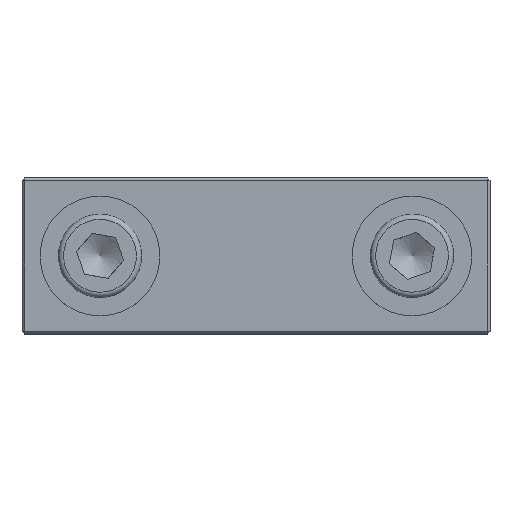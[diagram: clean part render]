
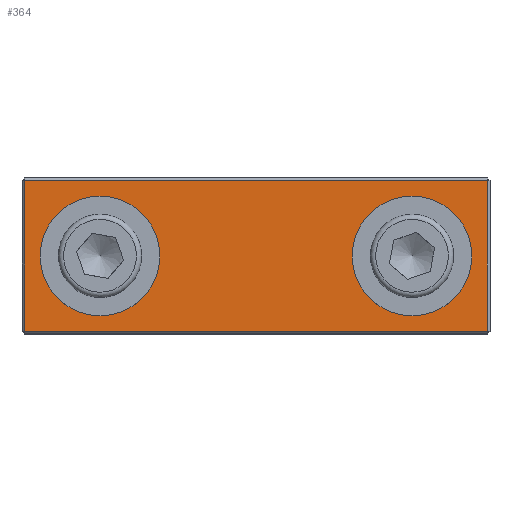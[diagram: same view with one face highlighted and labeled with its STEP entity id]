
A CAD part, top view. The second image highlights one B-rep face of the part: STEP entity #364.
In plain terms, the highlighted planar face has unit normal (0, 0, 1).
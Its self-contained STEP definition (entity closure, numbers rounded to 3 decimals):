
#299=CARTESIAN_POINT('',(35.75,0.,5.0));
#300=VERTEX_POINT('',#299);
#301=CARTESIAN_POINT('',(30.0,0.0,5.0));
#302=DIRECTION('',(0.0,0.0,1.0));
#303=DIRECTION('',(-1.0,0.0,0.0));
#304=AXIS2_PLACEMENT_3D('',#301,#302,#303);
#305=CIRCLE('',#304,5.75);
#306=EDGE_CURVE('',#300,#300,#305,.T.);
#311=CARTESIAN_POINT('',(0.,0.,5.0));
#312=DIRECTION('',(0.0,0.0,1.0));
#313=DIRECTION('',(1.0,0.0,0.0));
#314=AXIS2_PLACEMENT_3D('',#311,#312,#313);
#315=PLANE('',#314);
#316=CARTESIAN_POINT('',(-44.5,-14.5,5.0));
#317=VERTEX_POINT('',#316);
#318=CARTESIAN_POINT('',(-44.5,14.5,5.0));
#319=VERTEX_POINT('',#318);
#320=CARTESIAN_POINT('',(-44.5,-14.5,5.0));
#321=DIRECTION('',(0.0,1.0,0.0));
#322=VECTOR('',#321,29.0);
#323=LINE('',#320,#322);
#324=EDGE_CURVE('',#317,#319,#323,.T.);
#325=ORIENTED_EDGE('',*,*,#324,.F.);
#326=CARTESIAN_POINT('',(44.5,-14.5,5.0));
#327=VERTEX_POINT('',#326);
#328=CARTESIAN_POINT('',(44.5,-14.5,5.0));
#329=DIRECTION('',(-1.0,0.0,0.0));
#330=VECTOR('',#329,89.0);
#331=LINE('',#328,#330);
#332=EDGE_CURVE('',#327,#317,#331,.T.);
#333=ORIENTED_EDGE('',*,*,#332,.F.);
#334=CARTESIAN_POINT('',(44.5,14.5,5.0));
#335=VERTEX_POINT('',#334);
#336=CARTESIAN_POINT('',(44.5,14.5,5.0));
#337=DIRECTION('',(0.0,-1.0,0.0));
#338=VECTOR('',#337,29.);
#339=LINE('',#336,#338);
#340=EDGE_CURVE('',#335,#327,#339,.T.);
#341=ORIENTED_EDGE('',*,*,#340,.F.);
#342=CARTESIAN_POINT('',(-44.5,14.5,5.0));
#343=DIRECTION('',(1.0,0.0,0.0));
#344=VECTOR('',#343,89.0);
#345=LINE('',#342,#344);
#346=EDGE_CURVE('',#319,#335,#345,.T.);
#347=ORIENTED_EDGE('',*,*,#346,.F.);
#348=EDGE_LOOP('',(#325,#333,#341,#347));
#349=FACE_OUTER_BOUND('',#348,.T.);
#350=CARTESIAN_POINT('',(-24.25,0.,5.0));
#351=VERTEX_POINT('',#350);
#352=CARTESIAN_POINT('',(-30.0,0.0,5.0));
#353=DIRECTION('',(0.0,0.0,1.0));
#354=DIRECTION('',(-1.0,0.0,0.0));
#355=AXIS2_PLACEMENT_3D('',#352,#353,#354);
#356=CIRCLE('',#355,5.75);
#357=EDGE_CURVE('',#351,#351,#356,.T.);
#358=ORIENTED_EDGE('',*,*,#357,.F.);
#359=EDGE_LOOP('',(#358));
#360=FACE_BOUND('',#359,.T.);
#361=ORIENTED_EDGE('',*,*,#306,.F.);
#362=EDGE_LOOP('',(#361));
#363=FACE_BOUND('',#362,.T.);
#364=ADVANCED_FACE('',(#349,#360,#363),#315,.T.);
